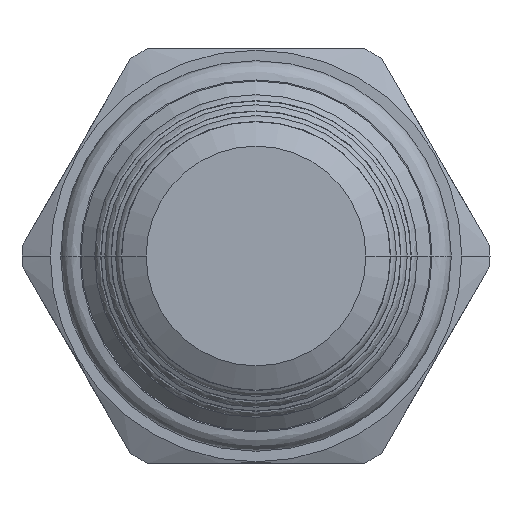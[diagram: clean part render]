
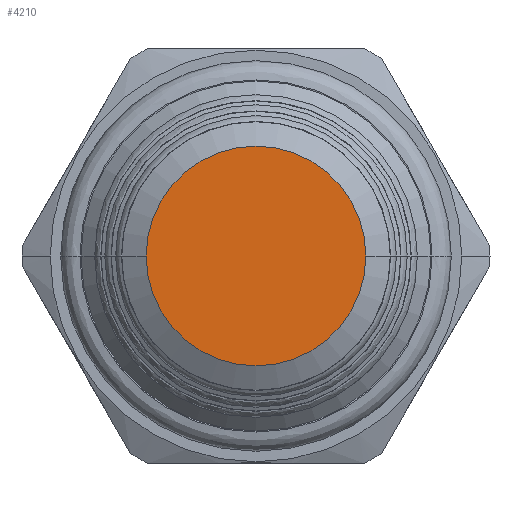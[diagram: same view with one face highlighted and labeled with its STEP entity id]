
A CAD part, front view. The second image highlights one B-rep face of the part: STEP entity #4210.
In plain terms, the highlighted planar face has unit normal (0, -1, 0).
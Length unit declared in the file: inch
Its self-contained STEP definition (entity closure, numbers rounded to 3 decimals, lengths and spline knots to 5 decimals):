
#1598=CARTESIAN_POINT('',(0.,-3.879,0.));
#1599=DIRECTION('',(0.,-1.,0.));
#1600=DIRECTION('',(-1.,0.,0.));
#1601=AXIS2_PLACEMENT_3D('',#1598,#1599,#1600);
#1603=CARTESIAN_POINT('',(0.,-3.879,0.));
#1604=DIRECTION('',(0.,-1.,0.));
#1605=DIRECTION('',(1.,0.,0.));
#1606=AXIS2_PLACEMENT_3D('',#1603,#1604,#1605);
#1683=CARTESIAN_POINT('',(-0.33089,-3.879,0.));
#1684=CARTESIAN_POINT('',(0.33089,-3.879,0.));
#1685=VERTEX_POINT('',#1683);
#1686=VERTEX_POINT('',#1684);
#4200=CARTESIAN_POINT('',(0.,-3.879,0.));
#4201=DIRECTION('',(0.,1.,0.));
#4202=DIRECTION('',(1.,0.,0.));
#4203=AXIS2_PLACEMENT_3D('',#4200,#4201,#4202);
#4204=PLANE('',#4203);
#4206=ORIENTED_EDGE('',*,*,#4205,.F.);
#4207=ORIENTED_EDGE('',*,*,#4190,.F.);
#4208=EDGE_LOOP('',(#4206,#4207));
#4209=FACE_OUTER_BOUND('',#4208,.F.);
#4210=ADVANCED_FACE('',(#4209),#4204,.F.);
#1602=CIRCLE('',#1601,0.33089);
#1607=CIRCLE('',#1606,0.33089);
#4190=EDGE_CURVE('',#1686,#1685,#1607,.T.);
#4205=EDGE_CURVE('',#1685,#1686,#1602,.T.);
